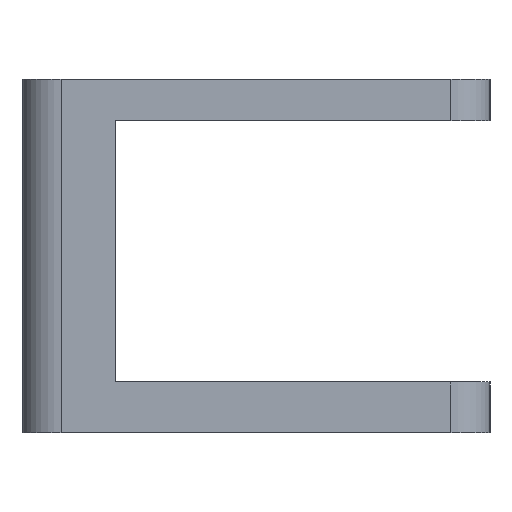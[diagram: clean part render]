
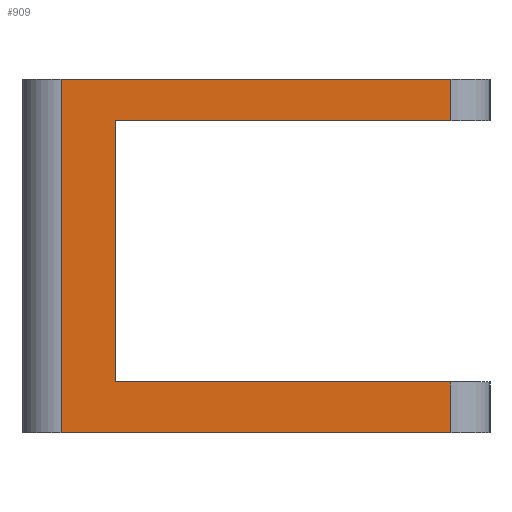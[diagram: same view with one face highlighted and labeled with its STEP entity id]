
A CAD part, left-side view. The second image highlights one B-rep face of the part: STEP entity #909.
In plain terms, the highlighted planar face has unit normal (-1, 0, 0).
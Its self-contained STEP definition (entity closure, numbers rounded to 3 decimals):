
#24=LINE('',#1463,#64);
#28=LINE('',#1479,#68);
#33=LINE('',#1493,#73);
#36=LINE('',#1499,#76);
#52=LINE('',#1545,#92);
#53=LINE('',#1548,#93);
#54=LINE('',#1549,#94);
#55=LINE('',#1550,#95);
#64=VECTOR('',#1215,5.3);
#68=VECTOR('',#1231,50.);
#73=VECTOR('',#1242,43.);
#76=VECTOR('',#1247,33.5);
#92=VECTOR('',#1295,6.5);
#93=VECTOR('',#1298,50.);
#94=VECTOR('',#1299,43.);
#95=VECTOR('',#1300,45.3);
#116=PLANE('',#1029);
#237=FACE_OUTER_BOUND('',#349,.T.);
#349=EDGE_LOOP('',(#785,#786,#787,#788,#789,#790,#791,#792));
#484=VERTEX_POINT('',#1459);
#485=VERTEX_POINT('',#1461);
#491=VERTEX_POINT('',#1477);
#496=VERTEX_POINT('',#1489);
#499=VERTEX_POINT('',#1496);
#512=VERTEX_POINT('',#1541);
#513=VERTEX_POINT('',#1543);
#514=VERTEX_POINT('',#1547);
#572=EDGE_CURVE('',#484,#485,#24,.T.);
#580=EDGE_CURVE('',#491,#485,#28,.T.);
#587=EDGE_CURVE('',#496,#484,#33,.T.);
#590=EDGE_CURVE('',#499,#496,#36,.T.);
#613=EDGE_CURVE('',#512,#513,#52,.T.);
#614=EDGE_CURVE('',#514,#512,#53,.T.);
#615=EDGE_CURVE('',#499,#513,#54,.T.);
#616=EDGE_CURVE('',#514,#491,#55,.T.);
#785=ORIENTED_EDGE('',*,*,#614,.T.);
#786=ORIENTED_EDGE('',*,*,#613,.T.);
#787=ORIENTED_EDGE('',*,*,#615,.F.);
#788=ORIENTED_EDGE('',*,*,#590,.T.);
#789=ORIENTED_EDGE('',*,*,#587,.T.);
#790=ORIENTED_EDGE('',*,*,#572,.T.);
#791=ORIENTED_EDGE('',*,*,#580,.F.);
#792=ORIENTED_EDGE('',*,*,#616,.F.);
#909=ADVANCED_FACE('',(#237),#116,.T.);
#1029=AXIS2_PLACEMENT_3D('',#1546,#1296,#1297);
#1215=DIRECTION('',(0.,0.,1.));
#1231=DIRECTION('',(0.,-1.,0.));
#1242=DIRECTION('',(0.,-1.,0.));
#1247=DIRECTION('',(0.,0.,1.));
#1295=DIRECTION('',(0.,0.,1.));
#1296=DIRECTION('center_axis',(-1.,0.,0.));
#1297=DIRECTION('ref_axis',(0.,-1.,0.));
#1298=DIRECTION('',(0.,-1.,0.));
#1299=DIRECTION('',(0.,-1.,0.));
#1300=DIRECTION('',(0.,0.,1.));
#1459=CARTESIAN_POINT('',(-100.721,-25.,40.));
#1461=CARTESIAN_POINT('',(-100.721,-25.,45.3));
#1463=CARTESIAN_POINT('',(-100.721,-25.,40.));
#1477=CARTESIAN_POINT('',(-100.721,25.,45.3));
#1479=CARTESIAN_POINT('',(-100.721,25.,45.3));
#1489=CARTESIAN_POINT('',(-100.721,18.,40.));
#1493=CARTESIAN_POINT('',(-100.721,25.,40.));
#1496=CARTESIAN_POINT('',(-100.721,18.,6.5));
#1499=CARTESIAN_POINT('',(-100.721,18.,6.5));
#1541=CARTESIAN_POINT('',(-100.721,-25.,0.));
#1543=CARTESIAN_POINT('',(-100.721,-25.,6.5));
#1545=CARTESIAN_POINT('',(-100.721,-25.,0.));
#1546=CARTESIAN_POINT('Origin',(-100.721,25.,0.));
#1547=CARTESIAN_POINT('',(-100.721,25.,0.));
#1548=CARTESIAN_POINT('',(-100.721,25.,0.));
#1549=CARTESIAN_POINT('',(-100.721,25.,6.5));
#1550=CARTESIAN_POINT('',(-100.721,25.,0.));
